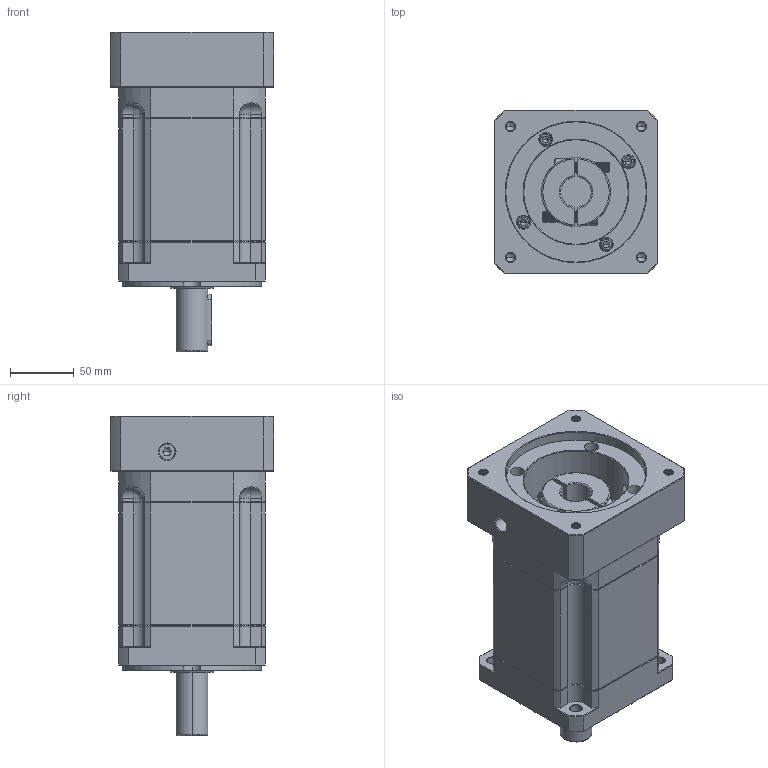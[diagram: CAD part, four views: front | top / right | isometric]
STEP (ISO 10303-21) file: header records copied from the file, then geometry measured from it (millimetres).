
FILE_DESCRIPTION (( 'STEP AP214' ), '1' );
FILE_NAME ('ZB115A-D25-L3-24-110-145-M8.step', '2023-03-02T08:58:57', ( '' ), ( 'Microsoft' ), 'SwSTEP 2.0', 'SolidWorks 2016', '' );
FILE_SCHEMA (( 'AUTOMOTIVE_DESIGN' ));
Length unit declared in the file: millimetre
Products named in the file (1): ZB115A-D25-L3-24-110-145-M8
Bounding box: 128 x 128 x 250.5 mm (x, y, z)
Volume: 2270147.3 mm3; surface area: 201976.9 mm2
Topology: 6 solids, 6 shells, 2112 faces, 5448 edges, 3430 vertices
Faces by surface type: plane 963, cylinder 439, cone 365, bspline 325, torus 20
Entity records: 112737 total; most frequent: CARTESIAN_POINT 40979, ORIENTED_EDGE 10828, DIRECTION 8880, EDGE_CURVE 5414, VERTEX_POINT 3430, VECTOR 3370, LINE 3370, AXIS2_PLACEMENT_3D 2755
